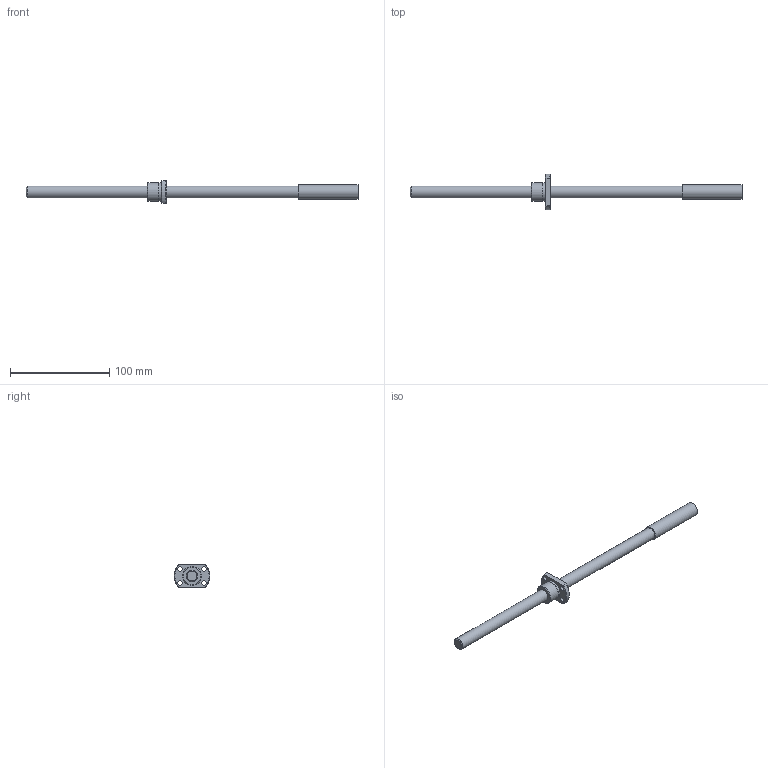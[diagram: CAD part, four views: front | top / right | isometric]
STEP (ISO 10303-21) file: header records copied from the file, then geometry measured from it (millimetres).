
FILE_DESCRIPTION(/* description */ ('STEP AP214'),/* implementation_level */ '2;1');
FILE_NAME(/* name */ 'SRT1202K-271R335C7A0X(A122.50X)',/* time_stamp */ '2026-08-06T15:12:47+02:00',/* author */ ('License CC BY-ND 4.0'),/* organization */ ('CADENAS'),/* preprocessor_version */ 'ST-DEVELOPER v20',/* originating_system */ 'PARTsolutions',/* authorisation */ ' ');
FILE_SCHEMA (('AUTOMOTIVE_DESIGN {1 0 10303 214 3 1 1}'));
Length unit declared in the file: millimetre
Products named in the file (3): SRT1202K-271R335C7A0X(A122.50X); 11ANone335; SR1202K_nut
Assembly tree (2 placements, depth 2):
  SRT1202K-271R335C7A0X(A122.50X)
    11ANone335
    SR1202K_nut
Bounding box: 335 x 36 x 23 mm (x, y, z)
Volume: 45867.4 mm3; surface area: 16842.5 mm2
Topology: 2 solids, 2 shells, 26 faces, 55 edges, 36 vertices
Faces by surface type: cylinder 11, plane 9, cone 6
Full cylindrical faces by diameter (mm): 4.5 x4, 12 x2, 14.2 x1, 18.6 x1, 19 x1
Entity records: 759 total; most frequent: CARTESIAN_POINT 133, DIRECTION 122, ORIENTED_EDGE 88, AXIS2_PLACEMENT_3D 57, EDGE_LOOP 50, FACE_BOUND 50, EDGE_CURVE 44, VERTEX_POINT 36
